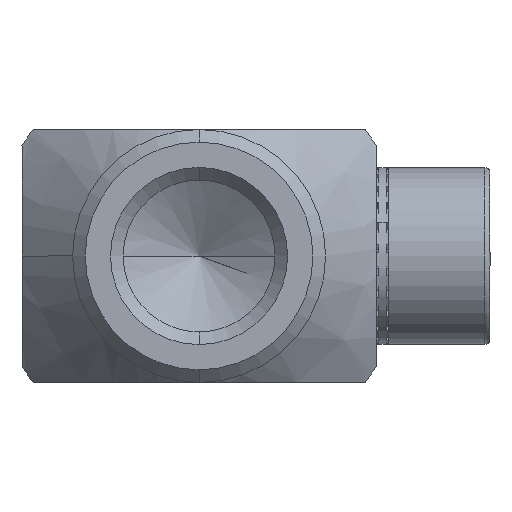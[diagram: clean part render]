
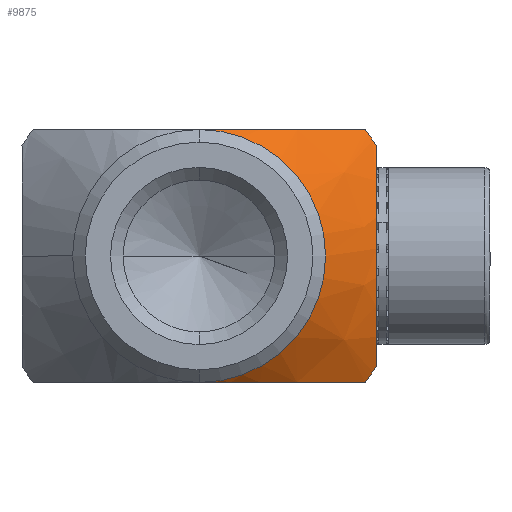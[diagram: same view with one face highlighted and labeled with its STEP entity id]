
A CAD part, front view. The second image highlights one B-rep face of the part: STEP entity #9875.
In plain terms, the highlighted conical face has half-angle 45 degrees and reference radius 5 mm.
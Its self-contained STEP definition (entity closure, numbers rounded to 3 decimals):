
#135 = CARTESIAN_POINT ( 'NONE',  ( 43.928, 43.113, -5. ) ) ;
#219 = EDGE_CURVE ( 'NONE', #2933, #3795, #7132, .T. ) ;
#458 = EDGE_CURVE ( 'NONE', #6559, #9342, #985, .T. ) ;
#463 = CARTESIAN_POINT ( 'NONE',  ( 44.87, 41.689, 0. ) ) ;
#491 = EDGE_CURVE ( 'NONE', #11466, #9155, #11820, .T. ) ;
#831 = B_SPLINE_CURVE_WITH_KNOTS ( 'NONE', 3,
 ( #10704, #6669, #1067, #8767, #941, #11484, #5800, #8695, #7871, #1201, #2979, #7684 ),
 .UNSPECIFIED., .F., .F.,
 ( 4, 2, 2, 2, 2, 4 ),
 ( 0., 0.002, 0.004, 0.006, 0.007, 0.007 ),
 .UNSPECIFIED. ) ;
#941 = CARTESIAN_POINT ( 'NONE',  ( 43.928, 43.113, 5. ) ) ;
#959 = CARTESIAN_POINT ( 'NONE',  ( 40.497, 41.719, -5. ) ) ;
#985 = B_SPLINE_CURVE_WITH_KNOTS ( 'NONE', 3,
 ( #12183, #5563, #9430, #4634, #4937, #5690, #7828, #10609, #8652, #4070, #7644, #8784, #10726 ),
 .UNSPECIFIED., .F., .F.,
 ( 4, 2, 2, 1, 2, 2, 4 ),
 ( 0., 0.002, 0.003, 0.005, 0.006, 0.007, 0.009 ),
 .UNSPECIFIED. ) ;
#1067 = CARTESIAN_POINT ( 'NONE',  ( 45.453, 44.175, 5. ) ) ;
#1201 = CARTESIAN_POINT ( 'NONE',  ( 40.497, 41.719, 5. ) ) ;
#1400 = AXIS2_PLACEMENT_3D ( 'NONE', #9466, #4795, #7679 ) ;
#1425 = EDGE_CURVE ( 'NONE', #11466, #9342, #8201, .T. ) ;
#1666 = AXIS2_PLACEMENT_3D ( 'NONE', #9025, #8906, #3297 ) ;
#1691 = AXIS2_PLACEMENT_3D ( 'NONE', #5642, #9551, #3020 ) ;
#1750 = EDGE_CURVE ( 'NONE', #9155, #2933, #7289, .T. ) ;
#1882 = CARTESIAN_POINT ( 'NONE',  ( 39.87, 41.689, 5. ) ) ;
#2454 = CARTESIAN_POINT ( 'NONE',  ( 46.432, 44.939, -5. ) ) ;
#2784 = AXIS2_PLACEMENT_3D ( 'NONE', #9801, #10921, #8144 ) ;
#2933 = VERTEX_POINT ( 'NONE', #463 ) ;
#2979 = CARTESIAN_POINT ( 'NONE',  ( 40.184, 41.689, 5. ) ) ;
#3020 = DIRECTION ( 'NONE',  ( 0., 0., 1. ) ) ;
#3297 = DIRECTION ( 'NONE',  ( 0., 0., 1. ) ) ;
#3630 = EDGE_LOOP ( 'NONE', ( #7302, #11423, #12441, #6167, #4397, #5058, #5251 ) ) ;
#3658 = VERTEX_POINT ( 'NONE', #5235 ) ;
#3795 = VERTEX_POINT ( 'NONE', #1882 ) ;
#4070 = CARTESIAN_POINT ( 'NONE',  ( 46.87, 43.933, -1.897 ) ) ;
#4223 = CIRCLE ( 'NONE', #1400, 8.25 ) ;
#4397 = ORIENTED_EDGE ( 'NONE', *, *, #4895, .T. ) ;
#4634 = CARTESIAN_POINT ( 'NONE',  ( 46.87, 43.933, 1.897 ) ) ;
#4795 = DIRECTION ( 'NONE',  ( 0., 1., 0. ) ) ;
#4883 = CARTESIAN_POINT ( 'NONE',  ( 42.289, 42.216, -5. ) ) ;
#4895 = EDGE_CURVE ( 'NONE', #3658, #3795, #831, .T. ) ;
#4937 = CARTESIAN_POINT ( 'NONE',  ( 46.87, 43.843, 1.523 ) ) ;
#5058 = ORIENTED_EDGE ( 'NONE', *, *, #219, .F. ) ;
#5235 = CARTESIAN_POINT ( 'NONE',  ( 46.432, 44.939, 5. ) ) ;
#5251 = ORIENTED_EDGE ( 'NONE', *, *, #1750, .F. ) ;
#5345 = AXIS2_PLACEMENT_3D ( 'NONE', #6889, #9737, #7839 ) ;
#5563 = CARTESIAN_POINT ( 'NONE',  ( 46.87, 44.579, 3.687 ) ) ;
#5642 = CARTESIAN_POINT ( 'NONE',  ( 39.87, 41.689, 0. ) ) ;
#5690 = CARTESIAN_POINT ( 'NONE',  ( 46.87, 43.72, 0.762 ) ) ;
#5800 = CARTESIAN_POINT ( 'NONE',  ( 42.289, 42.216, 5. ) ) ;
#5820 = CARTESIAN_POINT ( 'NONE',  ( 46.432, 44.939, -5. ) ) ;
#5939 = CARTESIAN_POINT ( 'NONE',  ( 41.112, 41.832, -5. ) ) ;
#6120 = CARTESIAN_POINT ( 'NONE',  ( 39.87, 41.689, -5. ) ) ;
#6167 = ORIENTED_EDGE ( 'NONE', *, *, #12065, .F. ) ;
#6559 = VERTEX_POINT ( 'NONE', #9936 ) ;
#6669 = CARTESIAN_POINT ( 'NONE',  ( 45.946, 44.552, 5. ) ) ;
#6818 = CARTESIAN_POINT ( 'NONE',  ( 45.946, 44.552, -5. ) ) ;
#6889 = CARTESIAN_POINT ( 'NONE',  ( 39.87, 41.689, 0. ) ) ;
#7132 = CIRCLE ( 'NONE', #1691, 5. ) ;
#7289 = CIRCLE ( 'NONE', #1666, 5. ) ;
#7302 = ORIENTED_EDGE ( 'NONE', *, *, #491, .F. ) ;
#7644 = CARTESIAN_POINT ( 'NONE',  ( 46.87, 44.269, -2.99 ) ) ;
#7679 = DIRECTION ( 'NONE',  ( 0., 0., 1. ) ) ;
#7684 = CARTESIAN_POINT ( 'NONE',  ( 39.87, 41.689, 5. ) ) ;
#7828 = CARTESIAN_POINT ( 'NONE',  ( 46.87, 43.658, 0. ) ) ;
#7839 = DIRECTION ( 'NONE',  ( -1., 0., 0. ) ) ;
#7871 = CARTESIAN_POINT ( 'NONE',  ( 41.112, 41.832, 5. ) ) ;
#8144 = DIRECTION ( 'NONE',  ( 0., 0., -1. ) ) ;
#8167 = CONICAL_SURFACE ( 'NONE', #5345, 5., 0.785 ) ;
#8201 = CIRCLE ( 'NONE', #2784, 8.25 ) ;
#8652 = CARTESIAN_POINT ( 'NONE',  ( 46.87, 43.843, -1.523 ) ) ;
#8695 = CARTESIAN_POINT ( 'NONE',  ( 41.411, 41.914, 5. ) ) ;
#8767 = CARTESIAN_POINT ( 'NONE',  ( 44.444, 43.456, 5. ) ) ;
#8784 = CARTESIAN_POINT ( 'NONE',  ( 46.87, 44.579, -3.687 ) ) ;
#8906 = DIRECTION ( 'NONE',  ( 0., -1., 0. ) ) ;
#9025 = CARTESIAN_POINT ( 'NONE',  ( 39.87, 41.689, 0. ) ) ;
#9155 = VERTEX_POINT ( 'NONE', #6120 ) ;
#9342 = VERTEX_POINT ( 'NONE', #10201 ) ;
#9430 = CARTESIAN_POINT ( 'NONE',  ( 46.87, 44.269, 2.99 ) ) ;
#9466 = CARTESIAN_POINT ( 'NONE',  ( 39.87, 44.939, 0. ) ) ;
#9540 = CARTESIAN_POINT ( 'NONE',  ( 45.453, 44.175, -5. ) ) ;
#9551 = DIRECTION ( 'NONE',  ( 0., -1., 0. ) ) ;
#9666 = CARTESIAN_POINT ( 'NONE',  ( 39.87, 41.689, -5. ) ) ;
#9678 = FACE_OUTER_BOUND ( 'NONE', #3630, .T. ) ;
#9737 = DIRECTION ( 'NONE',  ( 0., 1., 0. ) ) ;
#9793 = CARTESIAN_POINT ( 'NONE',  ( 41.411, 41.914, -5. ) ) ;
#9801 = CARTESIAN_POINT ( 'NONE',  ( 39.87, 44.939, 0. ) ) ;
#9875 = ADVANCED_FACE ( 'NONE', ( #9678 ), #8167, .T. ) ;
#9936 = CARTESIAN_POINT ( 'NONE',  ( 46.87, 44.939, 4.366 ) ) ;
#10201 = CARTESIAN_POINT ( 'NONE',  ( 46.87, 44.939, -4.366 ) ) ;
#10609 = CARTESIAN_POINT ( 'NONE',  ( 46.87, 43.72, -0.761 ) ) ;
#10704 = CARTESIAN_POINT ( 'NONE',  ( 46.432, 44.939, 5. ) ) ;
#10726 = CARTESIAN_POINT ( 'NONE',  ( 46.87, 44.939, -4.366 ) ) ;
#10921 = DIRECTION ( 'NONE',  ( 0., -1., 0. ) ) ;
#11423 = ORIENTED_EDGE ( 'NONE', *, *, #1425, .T. ) ;
#11466 = VERTEX_POINT ( 'NONE', #2454 ) ;
#11484 = CARTESIAN_POINT ( 'NONE',  ( 42.852, 42.494, 5. ) ) ;
#11500 = CARTESIAN_POINT ( 'NONE',  ( 44.444, 43.456, -5. ) ) ;
#11552 = CARTESIAN_POINT ( 'NONE',  ( 40.184, 41.689, -5. ) ) ;
#11618 = CARTESIAN_POINT ( 'NONE',  ( 42.852, 42.494, -5. ) ) ;
#11820 = B_SPLINE_CURVE_WITH_KNOTS ( 'NONE', 3,
 ( #5820, #6818, #9540, #11500, #135, #11618, #4883, #9793, #5939, #959, #11552, #9666 ),
 .UNSPECIFIED., .F., .F.,
 ( 4, 2, 2, 2, 2, 4 ),
 ( 0., 0.002, 0.004, 0.006, 0.007, 0.007 ),
 .UNSPECIFIED. ) ;
#12065 = EDGE_CURVE ( 'NONE', #3658, #6559, #4223, .T. ) ;
#12183 = CARTESIAN_POINT ( 'NONE',  ( 46.87, 44.939, 4.366 ) ) ;
#12441 = ORIENTED_EDGE ( 'NONE', *, *, #458, .F. ) ;
